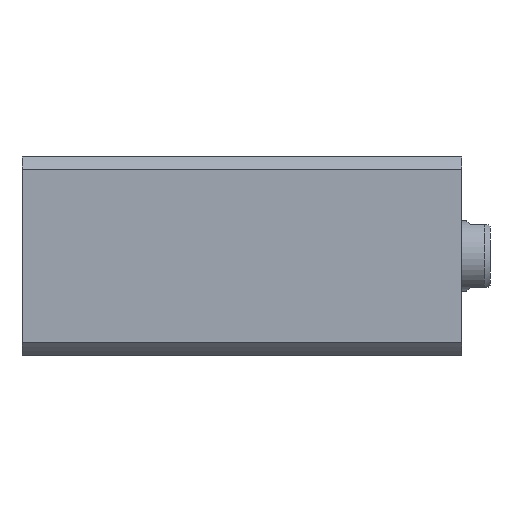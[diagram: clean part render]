
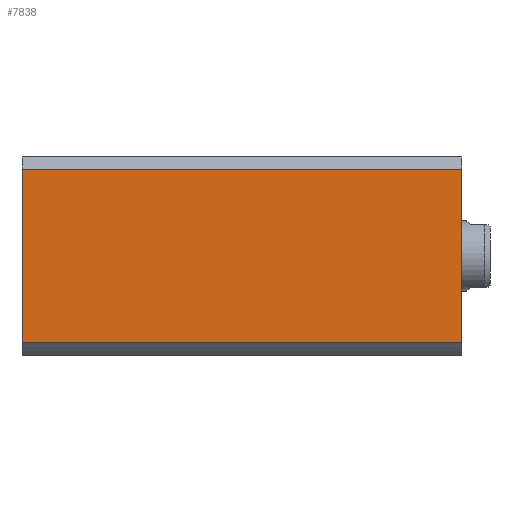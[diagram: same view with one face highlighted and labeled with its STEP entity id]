
A CAD part, left-side view. The second image highlights one B-rep face of the part: STEP entity #7838.
In plain terms, the highlighted planar face has unit normal (-1, 0, 0).
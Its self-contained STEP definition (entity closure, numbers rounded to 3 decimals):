
#139 = LINE ( 'NONE', #8089, #4080 ) ;
#326 = DIRECTION ( 'NONE',  ( 0., 0., -1. ) ) ;
#640 = DIRECTION ( 'NONE',  ( 0., 1., 0. ) ) ;
#1192 = CARTESIAN_POINT ( 'NONE',  ( -35., -30.615, 0. ) ) ;
#1259 = CARTESIAN_POINT ( 'NONE',  ( -35., 35., 155. ) ) ;
#1414 = EDGE_CURVE ( 'NONE', #6557, #7701, #7920, .T. ) ;
#2362 = EDGE_LOOP ( 'NONE', ( #7782, #4067, #2459, #5057 ) ) ;
#2459 = ORIENTED_EDGE ( 'NONE', *, *, #9079, .F. ) ;
#2599 = VECTOR ( 'NONE', #6755, 1000. ) ;
#3113 = FACE_OUTER_BOUND ( 'NONE', #2362, .T. ) ;
#3192 = VERTEX_POINT ( 'NONE', #9748 ) ;
#3309 = DIRECTION ( 'NONE',  ( 0., -1., 0. ) ) ;
#4067 = ORIENTED_EDGE ( 'NONE', *, *, #9277, .F. ) ;
#4080 = VECTOR ( 'NONE', #3309, 1000. ) ;
#4305 = AXIS2_PLACEMENT_3D ( 'NONE', #6894, #5355, #640 ) ;
#4543 = PLANE ( 'NONE',  #4305 ) ;
#4685 = LINE ( 'NONE', #1259, #2599 ) ;
#5057 = ORIENTED_EDGE ( 'NONE', *, *, #8880, .T. ) ;
#5355 = DIRECTION ( 'NONE',  ( 1., 0., 0. ) ) ;
#5437 = VECTOR ( 'NONE', #8222, 1000. ) ;
#5815 = VECTOR ( 'NONE', #326, 1000. ) ;
#6557 = VERTEX_POINT ( 'NONE', #8053 ) ;
#6755 = DIRECTION ( 'NONE',  ( 0., -1., 0. ) ) ;
#6894 = CARTESIAN_POINT ( 'NONE',  ( -35., 35., 155. ) ) ;
#7278 = LINE ( 'NONE', #8966, #5437 ) ;
#7701 = VERTEX_POINT ( 'NONE', #1192 ) ;
#7782 = ORIENTED_EDGE ( 'NONE', *, *, #1414, .F. ) ;
#7838 = ADVANCED_FACE ( 'NONE', ( #3113 ), #4543, .F. ) ;
#7920 = LINE ( 'NONE', #8195, #5815 ) ;
#8053 = CARTESIAN_POINT ( 'NONE',  ( -35., -30.615, 155. ) ) ;
#8089 = CARTESIAN_POINT ( 'NONE',  ( -35., 35., 0. ) ) ;
#8195 = CARTESIAN_POINT ( 'NONE',  ( -35., -30.615, 300. ) ) ;
#8222 = DIRECTION ( 'NONE',  ( 0., 0., 1. ) ) ;
#8667 = VERTEX_POINT ( 'NONE', #8692 ) ;
#8692 = CARTESIAN_POINT ( 'NONE',  ( -35., 30.615, 155. ) ) ;
#8880 = EDGE_CURVE ( 'NONE', #3192, #7701, #139, .T. ) ;
#8966 = CARTESIAN_POINT ( 'NONE',  ( -35., 30.615, 300. ) ) ;
#9079 = EDGE_CURVE ( 'NONE', #3192, #8667, #7278, .T. ) ;
#9277 = EDGE_CURVE ( 'NONE', #8667, #6557, #4685, .T. ) ;
#9748 = CARTESIAN_POINT ( 'NONE',  ( -35., 30.615, 0. ) ) ;
